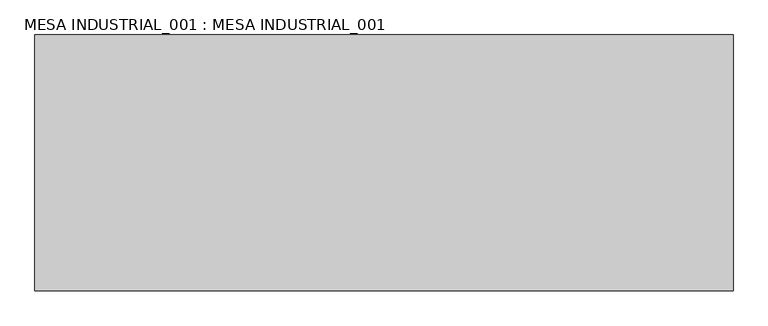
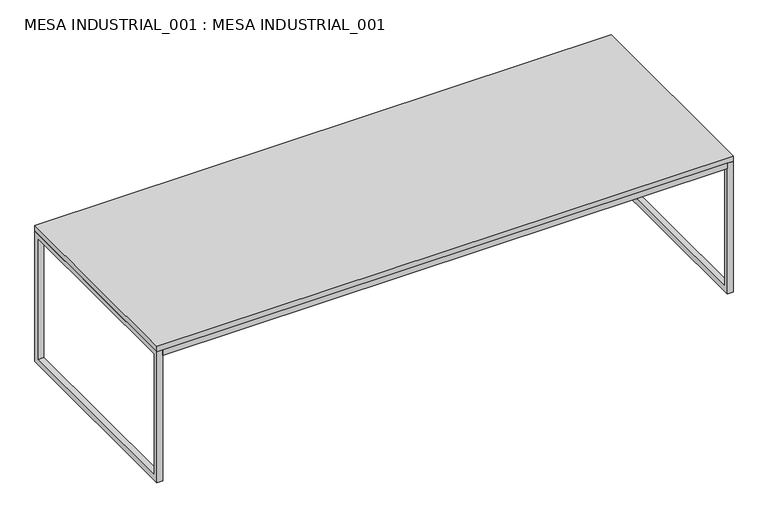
"""IFC4 building model written with IfcOpenShell, lengths in millimetres: furniture geometry, MESA INDUSTRIAL_001 : MESA INDUSTRIAL_001."""

import ifcopenshell
import ifcopenshell.guid

model = None  # the IFC model being written
_history = None  # IfcOwnerHistory: only IFC2X3 demands one
_inside = {}  # id of a spatial element -> (the spatial element, [elements in it])
_under = {}  # id of a project, library or spatial element -> (it, [spatial elements below it])
_declared = {}  # id of a project -> (the project, [libraries it declares])
_typed = {}  # id of a type object -> (the type object, [elements of that type])
_made_of = {}  # id of a material, layer set ... -> (it, [elements and type objects made of it])


def new_model(schema):
    """Start an empty IFC model of exactly this schema.

    Asked for "IFC4X3", IfcOpenShell would pick the latest addendum, in which some entities
    have other attributes; the version numbers below select the first issue.
    IFC2X3 requires an IfcOwnerHistory on every rooted entity: one is made here for all.
    """
    global model, _history
    if schema == "IFC4X3":
        model = ifcopenshell.file(schema_version=(4, 3, 0, 0))
    else:
        model = ifcopenshell.file(schema=schema)
    _inside.clear()
    _under.clear()
    _declared.clear()
    _typed.clear()
    _made_of.clear()
    _history = None
    if model.schema == "IFC2X3":
        org = make("IfcOrganization", Name="unknown")
        user = make(
            "IfcPersonAndOrganization",
            ThePerson=make("IfcPerson", FamilyName="unknown"),
            TheOrganization=org,
        )
        app = make(
            "IfcApplication",
            ApplicationDeveloper=org,
            Version="unknown",
            ApplicationFullName="unknown",
            ApplicationIdentifier="unknown",
        )
        _history = make(
            "IfcOwnerHistory",
            OwningUser=user,
            OwningApplication=app,
            ChangeAction="ADDED",
            CreationDate=0,
        )
    return model


def make(cls, **values):
    """One entity of the class cls with the attributes given. An attribute that is None is left unset."""
    return model.create_entity(
        cls, **{name: value for name, value in values.items() if value is not None}
    )


def rooted(cls, **values):
    """An entity with a GlobalId (a new one), such as an element, a storey or a relation."""
    return make(cls, GlobalId=ifcopenshell.guid.new(), OwnerHistory=_history, **values)


def si_unit(unit_type, name, prefix=None):
    """IfcSIUnit, for example si_unit("LENGTHUNIT", "METRE", prefix="MILLI")."""
    return make("IfcSIUnit", UnitType=unit_type, Prefix=prefix, Name=name)


def assignment(units):
    """IfcUnitAssignment: the units of a project."""
    return None if units is None else make("IfcUnitAssignment", Units=units)


def point(xyz):
    """IfcCartesianPoint."""
    return None if xyz is None else make("IfcCartesianPoint", Coordinates=xyz)


def direction(xyz):
    """IfcDirection."""
    return None if xyz is None else make("IfcDirection", DirectionRatios=xyz)


def frame(location, z_axis=None, x_axis=None):
    """IfcAxis2Placement3D, a coordinate frame: its origin and axes. An axis left out is left unset."""
    return make(
        "IfcAxis2Placement3D",
        Location=point(location),
        Axis=direction(z_axis),
        RefDirection=direction(x_axis),
    )


def origin():
    """The frame at (0, 0, 0) with its axes left unset."""
    return frame((0.0, 0.0, 0.0))


def place(relative_to, where):
    """IfcLocalPlacement: puts the frame where relative to a parent placement (None: the world)."""
    return make(
        "IfcLocalPlacement", PlacementRelTo=relative_to, RelativePlacement=where
    )


def context(
    kind, dimensions, precision=None, world=None, true_north=None, identifier=None
):
    """IfcGeometricRepresentationContext, for example the 3D "Model" context."""
    return make(
        "IfcGeometricRepresentationContext",
        ContextIdentifier=identifier,
        ContextType=kind,
        CoordinateSpaceDimension=dimensions,
        Precision=precision,
        WorldCoordinateSystem=world,
        TrueNorth=true_north,
    )


def project(units=None, contexts=None):
    """IfcProject with its units and contexts."""
    return rooted(
        "IfcProject",
        Name="project",
        RepresentationContexts=contexts,
        UnitsInContext=assignment(units),
    )


def spatial(cls, under=None, at=None, **own):
    """A site, building, storey or space (cls), placed at a placement, below another one or the project."""
    s = rooted(cls, ObjectPlacement=at, **own)
    if under is not None:
        _under.setdefault(under.id(), (under, []))[1].append(s)
    return s


def polyline(points):
    """IfcPolyline through the points."""
    return make("IfcPolyline", Points=[point(p) for p in points])


def outline(outer, holes=None, kind="AREA"):
    """IfcArbitraryClosedProfileDef: a profile drawn as a closed curve; with holes, ...WithVoids."""
    if holes is None:
        return make("IfcArbitraryClosedProfileDef", ProfileType=kind, OuterCurve=outer)
    return make(
        "IfcArbitraryProfileDefWithVoids",
        ProfileType=kind,
        OuterCurve=outer,
        InnerCurves=holes,
    )


def extrude(swept, where, along, depth):
    """IfcExtrudedAreaSolid: the profile swept, set in the frame where, extruded along a direction by depth."""
    return make(
        "IfcExtrudedAreaSolid",
        SweptArea=swept,
        Position=where,
        ExtrudedDirection=direction(along),
        Depth=depth,
    )


def shape(context_of_items, identifier, shape_type, items):
    """IfcShapeRepresentation: the items that make up one representation, for example the "Body"."""
    return make(
        "IfcShapeRepresentation",
        ContextOfItems=context_of_items,
        RepresentationIdentifier=identifier,
        RepresentationType=shape_type,
        Items=items,
    )


def source(mapping_origin, context_of_items, identifier, shape_type, items):
    """IfcRepresentationMap: a shape defined once, which mapped items show again and again."""
    return make(
        "IfcRepresentationMap",
        MappingOrigin=mapping_origin,
        MappedRepresentation=shape(context_of_items, identifier, shape_type, items),
    )


def transform(
    local_origin,
    x_axis=None,
    y_axis=None,
    z_axis=None,
    scale=None,
    scale2=None,
    scale3=None,
    uniform=True,
):
    """IfcCartesianTransformationOperator3D, or its non-uniform kind. x_axis, y_axis, z_axis: its Axis1, 2, 3."""
    if uniform:
        return make(
            "IfcCartesianTransformationOperator3D",
            Axis1=direction(x_axis),
            Axis2=direction(y_axis),
            LocalOrigin=point(local_origin),
            Scale=scale,
            Axis3=direction(z_axis),
        )
    return make(
        "IfcCartesianTransformationOperator3DnonUniform",
        Axis1=direction(x_axis),
        Axis2=direction(y_axis),
        LocalOrigin=point(local_origin),
        Scale=scale,
        Axis3=direction(z_axis),
        Scale2=scale2,
        Scale3=scale3,
    )


def mapped(mapping_source, mapping_target):
    """IfcMappedItem: shows the shape of a source again, moved by a transform."""
    return make(
        "IfcMappedItem", MappingSource=mapping_source, MappingTarget=mapping_target
    )


def made_of(thing, what):
    """Note that an element or type object is made of a material, layer set ...; save() writes the relation."""
    if what is not None:
        _made_of.setdefault(what.id(), (what, []))[1].append(thing)
    return thing


def element(
    cls,
    number,
    at=None,
    inside=None,
    cuts=None,
    type_object=None,
    material=None,
    context=None,
    identifier="Body",
    shape_type=None,
    held_by="IfcProductDefinitionShape",
    body=None,
    shapes=None,
    **own,
):
    """One element of the class cls, such as IfcWall. Its Tag is "e" and its number.

    at: its placement. inside: the storey or other place that contains it. cuts: it is an
    opening in that element (IfcRelVoidsElement). A single representation is given by context,
    identifier, shape_type and body (its items); several are given by shapes. held_by: the class
    of the entity that holds the representations. save() writes the other relations.
    """
    e = rooted(cls, Tag="e%d" % number, ObjectPlacement=at, **own)
    if body is not None:
        shapes = [shape(context, identifier, shape_type, body)]
    if shapes is not None:
        e.Representation = make(held_by, Representations=shapes)
    if inside is not None:
        _inside.setdefault(inside.id(), (inside, []))[1].append(e)
    if cuts is not None:
        rooted(
            "IfcRelVoidsElement", RelatingBuildingElement=cuts, RelatedOpeningElement=e
        )
    if type_object is not None:
        _typed.setdefault(type_object.id(), (type_object, []))[1].append(e)
    return made_of(e, material)


def aggregate(whole, parts):
    """IfcRelAggregates: a whole, such as a stair, and the parts it consists of."""
    return rooted("IfcRelAggregates", RelatingObject=whole, RelatedObjects=parts)


def save(model, path):
    """Write the relations noted so far, then the file.

    IfcRelAggregates (storeys below a building ...), IfcRelContainedInSpatialStructure (elements
    in a storey), IfcRelDefinesByType, IfcRelAssociatesMaterial and IfcRelDeclares: one each for
    every whole, place, type object, material and project.
    """
    for whole, parts in _under.values():
        aggregate(whole, parts)
    for where, things in _inside.values():
        rooted(
            "IfcRelContainedInSpatialStructure",
            RelatedElements=things,
            RelatingStructure=where,
        )
    for kind, things in _typed.values():
        rooted("IfcRelDefinesByType", RelatedObjects=things, RelatingType=kind)
    for what, things in _made_of.values():
        rooted("IfcRelAssociatesMaterial", RelatedObjects=things, RelatingMaterial=what)
    for by, libraries in _declared.values():
        rooted("IfcRelDeclares", RelatingContext=by, RelatedDefinitions=libraries)
    model.write(path)


def mesa_industrial_001_mesa_industrial_001_cb8feb8a(model_context):
    return source(origin(), model_context, "Body", "SweptSolid", [
        extrude(outline(polyline([(-1470.0, 550.0), (1470.0, 550.0), (1470.0, 520.0), (-1470.0, 520.0), (-1470.0, 550.0)])), frame((0.0, 0.0, 690.0), z_axis=(0.0, 0.0, 1.0), x_axis=(1.0, 0.0, 0.0)), (0.0, 0.0, 1.0), 30.0),
        extrude(outline(polyline([(-1470.0, -520.0), (1470.0, -520.0), (1470.0, -550.0), (-1470.0, -550.0), (-1470.0, -520.0)])), frame((0.0, 0.0, 690.0), z_axis=(0.0, 0.0, 1.0), x_axis=(1.0, 0.0, 0.0)), (0.0, 0.0, 1.0), 30.0),
        extrude(outline(polyline([(-550.0, 720.0), (550.0, 720.0), (550.0, 0.0), (-550.0, 0.0), (-550.0, 720.0)]), holes=[polyline([(-520.0, 690.0), (-520.0, 30.0), (520.0, 30.0), (520.0, 690.0), (-520.0, 690.0)])]), frame((-1500.0, 0.0, 0.0), z_axis=(1.0, 0.0, 0.0), x_axis=(0.0, 1.0, 0.0)), (0.0, 0.0, 1.0), 30.0),
        extrude(outline(polyline([(-550.0, 720.0), (550.0, 720.0), (550.0, 0.0), (-550.0, 0.0), (-550.0, 720.0)]), holes=[polyline([(-520.0, 690.0), (-520.0, 30.0), (520.0, 30.0), (520.0, 690.0), (-520.0, 690.0)])]), frame((1470.0, 0.0, 0.0), z_axis=(1.0, 0.0, 0.0), x_axis=(0.0, 1.0, 0.0)), (0.0, 0.0, 1.0), 30.0),
        extrude(outline(polyline([(-1500.0, 550.0), (1500.0, 550.0), (1500.0, -550.0), (-1500.0, -550.0), (-1500.0, 550.0)])), frame((0.0, 0.0, 720.0), z_axis=(0.0, 0.0, 1.0), x_axis=(1.0, 0.0, 0.0)), (0.0, 0.0, 1.0), 30.0),
    ])


if __name__ == "__main__":
    model = new_model("IFC4")
    model_context = context("Model", 3, world=origin())
    ifc_project = project(units=[si_unit("LENGTHUNIT", "METRE", prefix="MILLI")], contexts=[model_context])
    site = spatial("IfcSite", under=ifc_project)
    building = spatial("IfcBuilding", under=site)
    placement = place(None, origin())
    mesa_industrial_001_mesa_industrial_001_shape = mesa_industrial_001_mesa_industrial_001_cb8feb8a(model_context)
    element("IfcFurniture", 1, ObjectType="MESA INDUSTRIAL_001 : MESA INDUSTRIAL_001", at=placement, inside=building, context=model_context, shape_type="MappedRepresentation", body=[
        mapped(mesa_industrial_001_mesa_industrial_001_shape, transform((0.0, 0.0, 0.0), x_axis=(1.0, 0.0, 0.0), y_axis=(0.0, 1.0, 0.0), z_axis=(0.0, 0.0, 1.0))),
    ])
    save(model, "model.ifc")
